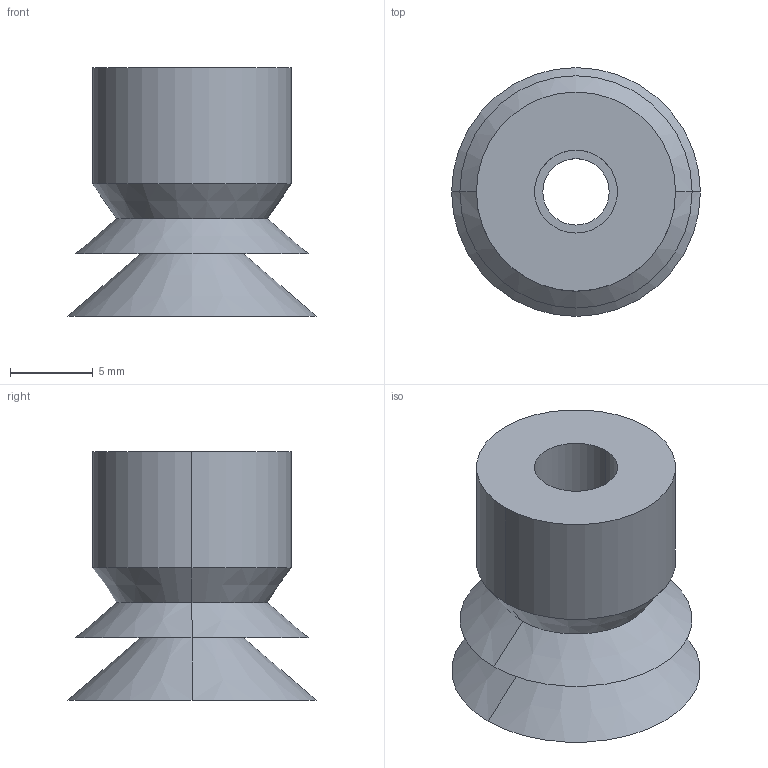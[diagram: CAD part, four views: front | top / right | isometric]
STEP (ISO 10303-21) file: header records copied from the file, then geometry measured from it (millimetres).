
FILE_DESCRIPTION (( 'STEP AP214' ), '1' );
FILE_NAME ('VSH2-S15.STEP', '2019-11-13T09:37:27', ( '微软用户' ), ( '微软中国' ), 'SwSTEP 2.0', 'SolidWorks 2016', '' );
FILE_SCHEMA (( 'AUTOMOTIVE_DESIGN' ));
Length unit declared in the file: millimetre
Products named in the file (1): VSH2-S15
Bounding box: 15 x 15 x 15 mm (x, y, z)
Volume: 736.6 mm3; surface area: 1544.4 mm2
Topology: 1 solids, 1 shells, 25 faces, 50 edges, 30 vertices
Faces by surface type: cone 12, cylinder 8, plane 5
Entity records: 692 total; most frequent: DIRECTION 132, CARTESIAN_POINT 106, ORIENTED_EDGE 100, AXIS2_PLACEMENT_3D 56, EDGE_CURVE 50, CIRCLE 30, EDGE_LOOP 30, VERTEX_POINT 30
